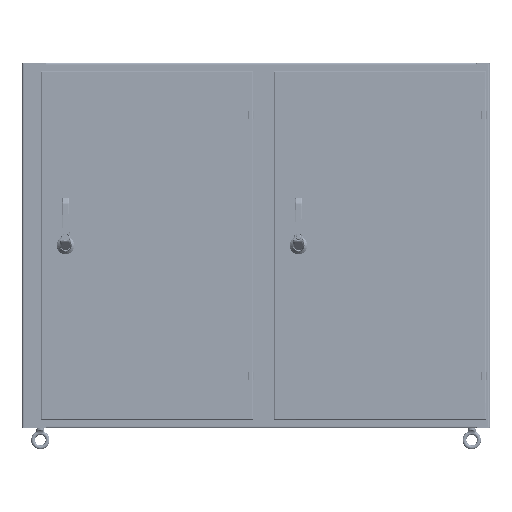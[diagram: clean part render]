
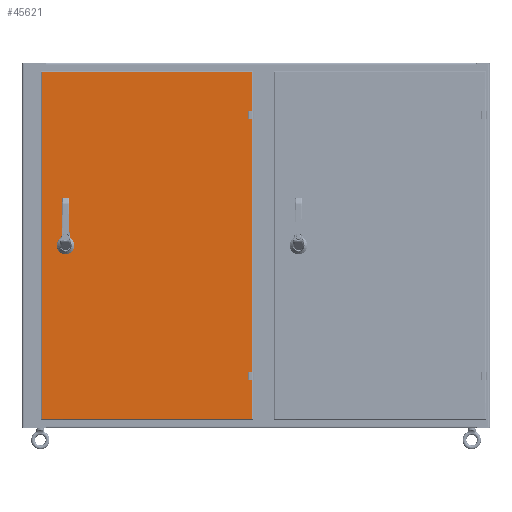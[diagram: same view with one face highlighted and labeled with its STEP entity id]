
A CAD part, left-side view. The second image highlights one B-rep face of the part: STEP entity #45621.
In plain terms, the highlighted planar face has unit normal (-1, 0, 0) as drawn and (0, 1, 0) by its records, which use the part's own axes.
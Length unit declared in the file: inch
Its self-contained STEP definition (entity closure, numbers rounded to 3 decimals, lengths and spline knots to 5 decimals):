
#41635=CARTESIAN_POINT('',(-12.06513,0.825,-19.883));
#41666=DIRECTION('',(0.,0.,1.));
#41667=VECTOR('',#41666,29.31);
#41668=CARTESIAN_POINT('',(-12.06513,0.825,-14.655));
#41669=LINE('',#41668,#41667);
#41680=DIRECTION('',(0.,0.,1.));
#41681=VECTOR('',#41680,4.538);
#41682=CARTESIAN_POINT('',(-12.06513,0.825,-19.883));
#41683=LINE('',#41682,#41681);
#41720=DIRECTION('',(0.,0.,1.));
#41721=VECTOR('',#41720,4.538);
#41722=CARTESIAN_POINT('',(-12.06513,0.825,15.345));
#41723=LINE('',#41722,#41721);
#42117=DIRECTION('',(-1.,0.,0.));
#42118=VECTOR('',#42117,24.13025);
#42119=CARTESIAN_POINT('',(12.06513,0.825,19.883));
#42120=LINE('',#42119,#42118);
#42395=DIRECTION('',(0.,0.,1.));
#42396=VECTOR('',#42395,39.766);
#42397=CARTESIAN_POINT('',(12.06513,0.825,-19.883));
#42398=LINE('',#42397,#42396);
#42409=CARTESIAN_POINT('',(9.37188,0.825,0.));
#42410=DIRECTION('',(0.,1.,0.));
#42411=DIRECTION('',(0.448,0.,0.894));
#42412=AXIS2_PLACEMENT_3D('',#42409,#42410,#42411);
#42417=DIRECTION('',(0.,0.,-1.));
#42418=VECTOR('',#42417,0.39715);
#42419=CARTESIAN_POINT('',(9.76788,0.825,0.19858));
#42420=LINE('',#42419,#42418);
#42424=CARTESIAN_POINT('',(9.37188,0.825,0.));
#42425=DIRECTION('',(0.,1.,0.));
#42426=DIRECTION('',(0.894,0.,-0.448));
#42427=AXIS2_PLACEMENT_3D('',#42424,#42425,#42426);
#42432=DIRECTION('',(-1.,0.,0.));
#42433=VECTOR('',#42432,0.39715);
#42434=CARTESIAN_POINT('',(9.57045,0.825,-0.396));
#42435=LINE('',#42434,#42433);
#42439=CARTESIAN_POINT('',(9.37188,0.825,0.));
#42440=DIRECTION('',(0.,1.,0.));
#42441=DIRECTION('',(-0.448,0.,-0.894));
#42442=AXIS2_PLACEMENT_3D('',#42439,#42440,#42441);
#42447=DIRECTION('',(0.,0.,1.));
#42448=VECTOR('',#42447,0.39715);
#42449=CARTESIAN_POINT('',(8.97588,0.825,-0.19858));
#42450=LINE('',#42449,#42448);
#42454=CARTESIAN_POINT('',(9.37188,0.825,0.));
#42455=DIRECTION('',(0.,1.,0.));
#42456=DIRECTION('',(-0.894,0.,0.448));
#42457=AXIS2_PLACEMENT_3D('',#42454,#42455,#42456);
#42462=DIRECTION('',(1.,0.,0.));
#42463=VECTOR('',#42462,0.39715);
#42464=CARTESIAN_POINT('',(9.1733,0.825,0.396));
#42465=LINE('',#42464,#42463);
#42469=CARTESIAN_POINT('',(9.37188,0.825,1.094));
#42470=DIRECTION('',(0.,1.,0.));
#42471=DIRECTION('',(-1.,0.,0.));
#42472=AXIS2_PLACEMENT_3D('',#42469,#42470,#42471);
#42477=CARTESIAN_POINT('',(9.37188,0.825,1.094));
#42478=DIRECTION('',(0.,1.,0.));
#42479=DIRECTION('',(1.,0.,0.));
#42480=AXIS2_PLACEMENT_3D('',#42477,#42478,#42479);
#42485=DIRECTION('',(1.,0.,0.));
#42486=VECTOR('',#42485,0.363);
#42487=CARTESIAN_POINT('',(-12.06513,0.825,15.345));
#42488=LINE('',#42487,#42486);
#42492=DIRECTION('',(0.,0.,1.));
#42493=VECTOR('',#42492,0.63);
#42494=CARTESIAN_POINT('',(-11.67213,0.825,14.685));
#42495=LINE('',#42494,#42493);
#42499=DIRECTION('',(1.,0.,0.));
#42500=VECTOR('',#42499,0.363);
#42501=CARTESIAN_POINT('',(-12.06513,0.825,14.655));
#42502=LINE('',#42501,#42500);
#42506=DIRECTION('',(1.,0.,0.));
#42507=VECTOR('',#42506,0.363);
#42508=CARTESIAN_POINT('',(-12.06513,0.825,-14.655));
#42509=LINE('',#42508,#42507);
#42513=DIRECTION('',(0.,0.,1.));
#42514=VECTOR('',#42513,0.63);
#42515=CARTESIAN_POINT('',(-11.67213,0.825,-15.315));
#42516=LINE('',#42515,#42514);
#42520=DIRECTION('',(1.,0.,0.));
#42521=VECTOR('',#42520,0.363);
#42522=CARTESIAN_POINT('',(-12.06513,0.825,-15.345));
#42523=LINE('',#42522,#42521);
#42997=DIRECTION('',(-1.,0.,0.));
#42998=VECTOR('',#42997,24.13025);
#42999=CARTESIAN_POINT('',(12.06513,0.825,-19.883));
#43000=LINE('',#42999,#42998);
#43528=CARTESIAN_POINT('',(-11.70213,0.825,14.685));
#43529=DIRECTION('',(0.,-1.,0.));
#43530=DIRECTION('',(0.,0.,-1.));
#43531=AXIS2_PLACEMENT_3D('',#43528,#43529,#43530);
#43558=CARTESIAN_POINT('',(-11.70213,0.825,15.315));
#43559=DIRECTION('',(0.,-1.,0.));
#43560=DIRECTION('',(1.,0.,0.));
#43561=AXIS2_PLACEMENT_3D('',#43558,#43559,#43560);
#43685=CARTESIAN_POINT('',(-11.70213,0.825,-15.315));
#43686=DIRECTION('',(0.,-1.,0.));
#43687=DIRECTION('',(0.,0.,-1.));
#43688=AXIS2_PLACEMENT_3D('',#43685,#43686,#43687);
#43715=CARTESIAN_POINT('',(-11.70213,0.825,-14.685));
#43716=DIRECTION('',(0.,-1.,0.));
#43717=DIRECTION('',(1.,0.,0.));
#43718=AXIS2_PLACEMENT_3D('',#43715,#43716,#43717);
#44081=CARTESIAN_POINT('',(12.06513,0.825,-19.883));
#44082=CARTESIAN_POINT('',(12.06513,0.825,19.883));
#44083=VERTEX_POINT('',#44081);
#44084=VERTEX_POINT('',#44082);
#44117=CARTESIAN_POINT('',(9.57045,0.825,0.396));
#44118=CARTESIAN_POINT('',(9.76788,0.825,0.19858));
#44119=VERTEX_POINT('',#44117);
#44120=VERTEX_POINT('',#44118);
#44121=CARTESIAN_POINT('',(9.76788,0.825,-0.19858));
#44122=VERTEX_POINT('',#44121);
#44123=CARTESIAN_POINT('',(9.57045,0.825,-0.396));
#44124=VERTEX_POINT('',#44123);
#44125=CARTESIAN_POINT('',(9.1733,0.825,-0.396));
#44126=VERTEX_POINT('',#44125);
#44127=CARTESIAN_POINT('',(8.97588,0.825,-0.19858));
#44128=VERTEX_POINT('',#44127);
#44129=CARTESIAN_POINT('',(8.97588,0.825,0.19858));
#44130=VERTEX_POINT('',#44129);
#44131=CARTESIAN_POINT('',(9.1733,0.825,0.396));
#44132=VERTEX_POINT('',#44131);
#44149=CARTESIAN_POINT('',(9.24688,0.825,1.094));
#44150=CARTESIAN_POINT('',(9.49688,0.825,1.094));
#44151=VERTEX_POINT('',#44149);
#44152=VERTEX_POINT('',#44150);
#44189=VERTEX_POINT('',#41635);
#44206=CARTESIAN_POINT('',(-12.06513,0.825,19.883));
#44208=VERTEX_POINT('',#44206);
#44408=CARTESIAN_POINT('',(-12.06513,0.825,-14.655));
#44410=VERTEX_POINT('',#44408);
#44412=CARTESIAN_POINT('',(-12.06513,0.825,-15.345));
#44414=VERTEX_POINT('',#44412);
#44416=CARTESIAN_POINT('',(-12.06513,0.825,15.345));
#44418=VERTEX_POINT('',#44416);
#44420=CARTESIAN_POINT('',(-12.06513,0.825,14.655));
#44422=VERTEX_POINT('',#44420);
#44447=CARTESIAN_POINT('',(-11.67213,0.825,-14.685));
#44449=VERTEX_POINT('',#44447);
#44451=CARTESIAN_POINT('',(-11.70213,0.825,-14.655));
#44453=VERTEX_POINT('',#44451);
#44455=CARTESIAN_POINT('',(-11.70213,0.825,-15.345));
#44457=VERTEX_POINT('',#44455);
#44459=CARTESIAN_POINT('',(-11.67213,0.825,-15.315));
#44461=VERTEX_POINT('',#44459);
#44487=CARTESIAN_POINT('',(-11.70213,0.825,14.655));
#44489=VERTEX_POINT('',#44487);
#44491=CARTESIAN_POINT('',(-11.67213,0.825,14.685));
#44493=VERTEX_POINT('',#44491);
#44495=CARTESIAN_POINT('',(-11.67213,0.825,15.315));
#44497=VERTEX_POINT('',#44495);
#44499=CARTESIAN_POINT('',(-11.70213,0.825,15.345));
#44501=VERTEX_POINT('',#44499);
#45563=CARTESIAN_POINT('',(12.18213,0.825,-20.));
#45564=DIRECTION('',(0.,1.,0.));
#45565=DIRECTION('',(-1.,0.,0.));
#45566=AXIS2_PLACEMENT_3D('',#45563,#45564,#45565);
#45567=PLANE('',#45566);
#45568=ORIENTED_EDGE('',*,*,#45217,.T.);
#45569=ORIENTED_EDGE('',*,*,#44871,.F.);
#45571=ORIENTED_EDGE('',*,*,#45570,.T.);
#45573=ORIENTED_EDGE('',*,*,#45572,.F.);
#45575=ORIENTED_EDGE('',*,*,#45574,.F.);
#45577=ORIENTED_EDGE('',*,*,#45576,.F.);
#45579=ORIENTED_EDGE('',*,*,#45578,.F.);
#45580=ORIENTED_EDGE('',*,*,#44836,.F.);
#45582=ORIENTED_EDGE('',*,*,#45581,.T.);
#45584=ORIENTED_EDGE('',*,*,#45583,.F.);
#45586=ORIENTED_EDGE('',*,*,#45585,.F.);
#45588=ORIENTED_EDGE('',*,*,#45587,.F.);
#45590=ORIENTED_EDGE('',*,*,#45589,.F.);
#45591=ORIENTED_EDGE('',*,*,#44851,.F.);
#45593=ORIENTED_EDGE('',*,*,#45592,.F.);
#45594=ORIENTED_EDGE('',*,*,#45554,.T.);
#45595=EDGE_LOOP('',(#45568,#45569,#45571,#45573,#45575,#45577,#45579,#45580,
#45582,#45584,#45586,#45588,#45590,#45591,#45593,#45594));
#45596=FACE_OUTER_BOUND('',#45595,.F.);
#45598=ORIENTED_EDGE('',*,*,#45597,.T.);
#45600=ORIENTED_EDGE('',*,*,#45599,.T.);
#45601=EDGE_LOOP('',(#45598,#45600));
#45602=FACE_BOUND('',#45601,.F.);
#45604=ORIENTED_EDGE('',*,*,#45603,.T.);
#45606=ORIENTED_EDGE('',*,*,#45605,.T.);
#45608=ORIENTED_EDGE('',*,*,#45607,.T.);
#45610=ORIENTED_EDGE('',*,*,#45609,.T.);
#45612=ORIENTED_EDGE('',*,*,#45611,.T.);
#45614=ORIENTED_EDGE('',*,*,#45613,.T.);
#45616=ORIENTED_EDGE('',*,*,#45615,.T.);
#45618=ORIENTED_EDGE('',*,*,#45617,.T.);
#45619=EDGE_LOOP('',(#45604,#45606,#45608,#45610,#45612,#45614,#45616,#45618));
#45620=FACE_BOUND('',#45619,.F.);
#42413=CIRCLE('',#42412,0.443);
#42428=CIRCLE('',#42427,0.443);
#42443=CIRCLE('',#42442,0.443);
#42458=CIRCLE('',#42457,0.443);
#42473=CIRCLE('',#42472,0.125);
#42481=CIRCLE('',#42480,0.125);
#43532=CIRCLE('',#43531,0.03);
#43562=CIRCLE('',#43561,0.03);
#43689=CIRCLE('',#43688,0.03);
#43719=CIRCLE('',#43718,0.03);
#44836=EDGE_CURVE('',#44410,#44422,#41669,.T.);
#44851=EDGE_CURVE('',#44189,#44414,#41683,.T.);
#44871=EDGE_CURVE('',#44418,#44208,#41723,.T.);
#45217=EDGE_CURVE('',#44084,#44208,#42120,.T.);
#45554=EDGE_CURVE('',#44083,#44084,#42398,.T.);
#45570=EDGE_CURVE('',#44418,#44501,#42488,.T.);
#45572=EDGE_CURVE('',#44497,#44501,#43562,.T.);
#45574=EDGE_CURVE('',#44493,#44497,#42495,.T.);
#45576=EDGE_CURVE('',#44489,#44493,#43532,.T.);
#45578=EDGE_CURVE('',#44422,#44489,#42502,.T.);
#45581=EDGE_CURVE('',#44410,#44453,#42509,.T.);
#45583=EDGE_CURVE('',#44449,#44453,#43719,.T.);
#45585=EDGE_CURVE('',#44461,#44449,#42516,.T.);
#45587=EDGE_CURVE('',#44457,#44461,#43689,.T.);
#45589=EDGE_CURVE('',#44414,#44457,#42523,.T.);
#45592=EDGE_CURVE('',#44083,#44189,#43000,.T.);
#45597=EDGE_CURVE('',#44151,#44152,#42473,.T.);
#45599=EDGE_CURVE('',#44152,#44151,#42481,.T.);
#45603=EDGE_CURVE('',#44119,#44120,#42413,.T.);
#45605=EDGE_CURVE('',#44120,#44122,#42420,.T.);
#45607=EDGE_CURVE('',#44122,#44124,#42428,.T.);
#45609=EDGE_CURVE('',#44124,#44126,#42435,.T.);
#45611=EDGE_CURVE('',#44126,#44128,#42443,.T.);
#45613=EDGE_CURVE('',#44128,#44130,#42450,.T.);
#45615=EDGE_CURVE('',#44130,#44132,#42458,.T.);
#45617=EDGE_CURVE('',#44132,#44119,#42465,.T.);
#45621=ADVANCED_FACE('',(#45596,#45602,#45620),#45567,.T.);
